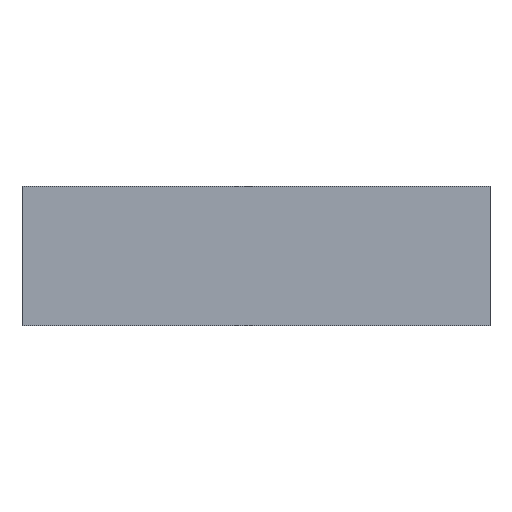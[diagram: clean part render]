
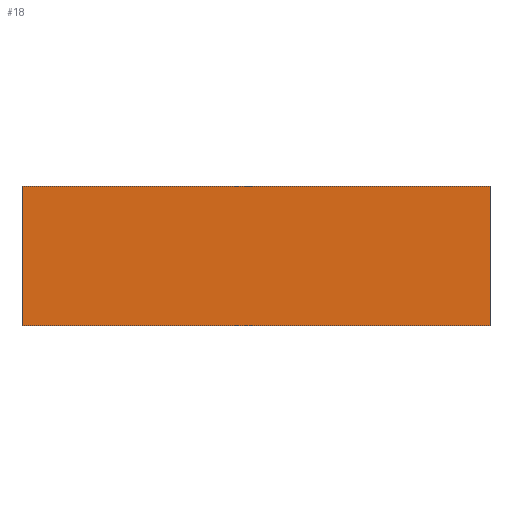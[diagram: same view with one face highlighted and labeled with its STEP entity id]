
A CAD part, front view. The second image highlights one B-rep face of the part: STEP entity #18.
In plain terms, the highlighted planar face has unit normal (0, -1, 0).
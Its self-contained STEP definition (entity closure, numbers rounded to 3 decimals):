
#18 = ADVANCED_FACE ( 'NONE', ( #226 ), #440, .F. ) ;
#41 = EDGE_LOOP ( 'NONE', ( #99, #112, #175, #176 ) ) ;
#67 = VECTOR ( 'NONE', #550, 1000. ) ;
#68 = LINE ( 'NONE', #549, #67 ) ;
#99 = ORIENTED_EDGE ( 'NONE', *, *, #660, .T. ) ;
#112 = ORIENTED_EDGE ( 'NONE', *, *, #680, .F. ) ;
#175 = ORIENTED_EDGE ( 'NONE', *, *, #725, .F. ) ;
#176 = ORIENTED_EDGE ( 'NONE', *, *, #723, .T. ) ;
#226 = FACE_OUTER_BOUND ( 'NONE', #41, .T. ) ;
#234 = LINE ( 'NONE', #523, #239 ) ;
#239 = VECTOR ( 'NONE', #526, 1000. ) ;
#305 = LINE ( 'NONE', #606, #306 ) ;
#306 = VECTOR ( 'NONE', #607, 1000. ) ;
#309 = LINE ( 'NONE', #610, #310 ) ;
#310 = VECTOR ( 'NONE', #611, 1000. ) ;
#382 = VERTEX_POINT ( 'NONE', #467 ) ;
#388 = VERTEX_POINT ( 'NONE', #478 ) ;
#389 = VERTEX_POINT ( 'NONE', #479 ) ;
#411 = VERTEX_POINT ( 'NONE', #501 ) ;
#440 = PLANE ( 'NONE',  #728 ) ;
#443 = CARTESIAN_POINT ( 'NONE',  ( -201., 0., 120. ) ) ;
#449 = DIRECTION ( 'NONE',  ( 0., 1., 0. ) ) ;
#450 = DIRECTION ( 'NONE',  ( -1., 0., 0. ) ) ;
#467 = CARTESIAN_POINT ( 'NONE',  ( 201., 0., 120. ) ) ;
#478 = CARTESIAN_POINT ( 'NONE',  ( 201., 0., 0. ) ) ;
#479 = CARTESIAN_POINT ( 'NONE',  ( -201., 0., 0. ) ) ;
#501 = CARTESIAN_POINT ( 'NONE',  ( -201., 0., 120. ) ) ;
#523 = CARTESIAN_POINT ( 'NONE',  ( -201., 0., 0. ) ) ;
#526 = DIRECTION ( 'NONE',  ( 1., 0., 0. ) ) ;
#549 = CARTESIAN_POINT ( 'NONE',  ( 201., 0., 120. ) ) ;
#550 = DIRECTION ( 'NONE',  ( 0., 0., -1. ) ) ;
#606 = CARTESIAN_POINT ( 'NONE',  ( -201., 0., 120. ) ) ;
#607 = DIRECTION ( 'NONE',  ( 0., 0., -1. ) ) ;
#610 = CARTESIAN_POINT ( 'NONE',  ( -201., 0., 120. ) ) ;
#611 = DIRECTION ( 'NONE',  ( 1., 0., 0. ) ) ;
#660 = EDGE_CURVE ( 'NONE', #389, #388, #234, .T. ) ;
#680 = EDGE_CURVE ( 'NONE', #382, #388, #68, .T. ) ;
#723 = EDGE_CURVE ( 'NONE', #411, #389, #305, .T. ) ;
#725 = EDGE_CURVE ( 'NONE', #411, #382, #309, .T. ) ;
#728 = AXIS2_PLACEMENT_3D ( 'NONE', #443, #449, #450 ) ;
